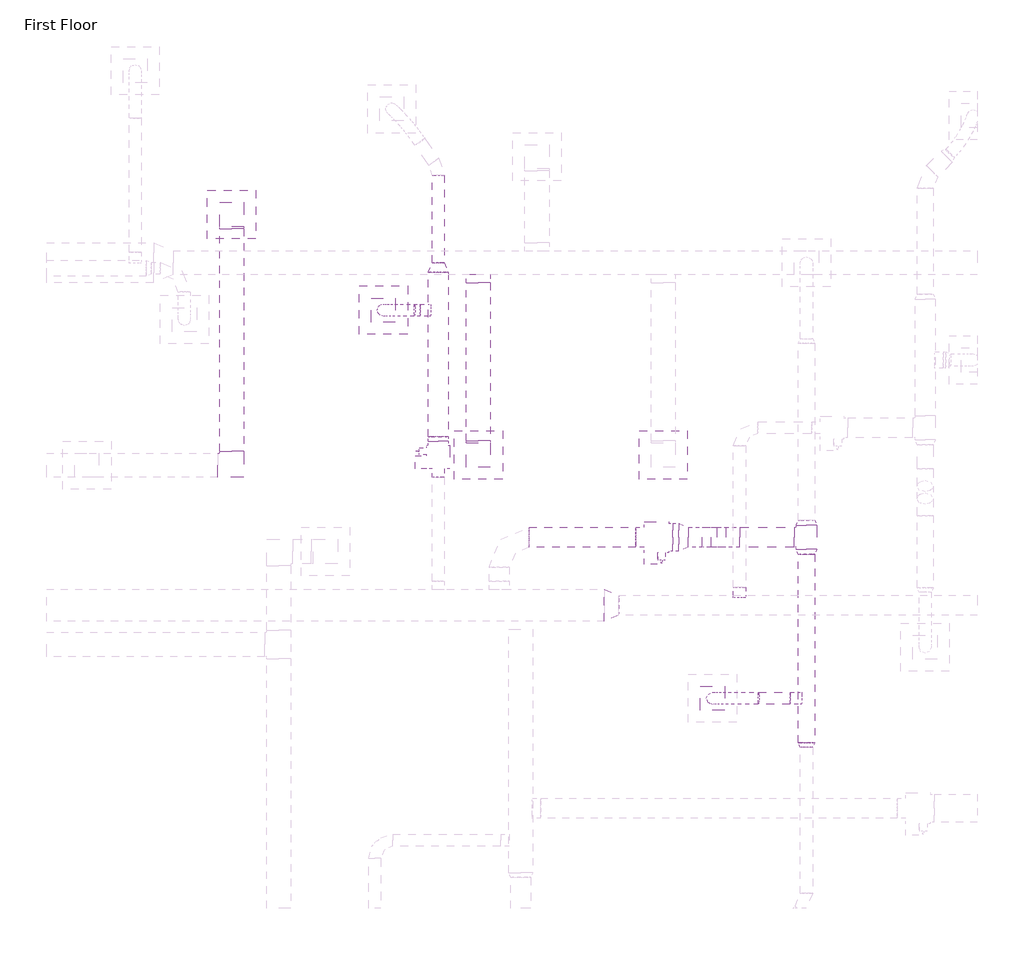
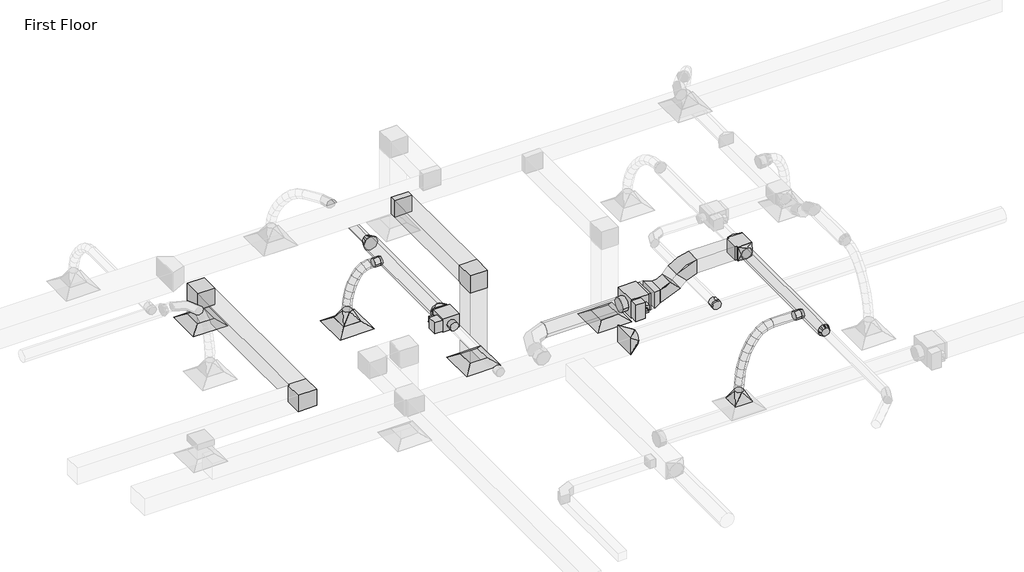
# One storey, part 55 of 61: 19 duct fittings, 15 duct segments, 4 air terminals, 2 proxies.
"""IFC4 building model written with IfcOpenShell, lengths in millimetres."""

from ifc_helpers import new_model, si_unit, point, frame, frame_2d, origin, place, context, project, spatial, polyline, circle_curve, ellipse_curve, trimmed, segment, composite_curve, outline, extrude, transform, mapped, element, save
from ifc_brep_helpers import plane_surface, cylinder_surface, advanced_brep
from components import m_exhaust_grill_er_600_x_600_face_300_x_300_connection_ff221211, m_vav_unit_single_duct_150_mm_e1405e6c, m_vav_unit_single_duct_250_mm_b14a1009, m_rectangular_elbow_mitered_standard_8eee5933, m_rectangular_elbow_radius_1_5_w_95db7921, m_rectangular_takeoff_standard_c00386d1, m_rectangular_tee_standard_d0887a4a, m_rectangular_transition_angle_45_degree_68338550, m_rectangular_to_round_transition_angle_45_degree_8f201c83, m_rectangular_to_round_transition_angle_45_degree_3d96429c, m_rectangular_to_round_transition_angle_45_degree_8322f327, m_rectangular_to_round_transition_angle_45_degree_a335dc79, m_round_takeoff_standard_e1559ea3, m_round_takeoff_standard_b5c2ee18, m_round_transition_angle_45_degree_6d7b59ce, m_round_transition_angle_45_degree_7615eb52

model = new_model("IFC4")

# Units and contexts
model_context = context("Model", 3, world=origin())
ifc_project = project(units=[si_unit("LENGTHUNIT", "METRE", prefix="MILLI")], contexts=[model_context])

# Site, building, storey
site = spatial("IfcSite", under=ifc_project)
building = spatial("IfcBuilding", under=site)
storey = spatial("IfcBuildingStorey", under=building, Name="First Floor", Elevation=0.0)

# Air terminals
placement = place(None, origin())
m_exhaust_grill_er_600_x_600_face_300_x_300_connection_shape = m_exhaust_grill_er_600_x_600_face_300_x_300_connection_ff221211(model_context)
element("IfcAirTerminal", 1, ObjectType="M_Exhaust Grill : ER-600 x 600 Face 300 x 300 Connection", at=placement, inside=storey, context=model_context, shape_type="MappedRepresentation", body=[
    mapped(m_exhaust_grill_er_600_x_600_face_300_x_300_connection_shape, transform((-15420.3756959, 47811.7457898, 2680.0), x_axis=(1.0, 0.0, 0.0), y_axis=(0.0, 1.0, 0.0), z_axis=(0.0, 0.0, 1.0))),
])
element("IfcAirTerminal", 2, ObjectType="M_Return Register : RR-600 x 600 Face 300 x 300 Connection", at=placement, inside=storey, context=model_context, shape_type="MappedRepresentation", body=[
    mapped(m_exhaust_grill_er_600_x_600_face_300_x_300_connection_shape, transform((-12353.0205377, 44823.6244525, 2680.0), x_axis=(1.0, 0.0, 0.0), y_axis=(0.0, 1.0, 0.0), z_axis=(0.0, 0.0, 1.0))),
])
element("IfcAirTerminal", 3, ObjectType="M_Return Register : RR-600 x 600 Face 300 x 300 Connection", at=placement, inside=storey, context=model_context, shape_type="MappedRepresentation", body=[
    mapped(m_exhaust_grill_er_600_x_600_face_300_x_300_connection_shape, transform((-10054.3728287, 44823.6244525, 2680.0), x_axis=(1.0, 0.0, 0.0), y_axis=(0.0, 1.0, 0.0), z_axis=(0.0, 0.0, 1.0))),
])
element("IfcAirTerminal", 4, ObjectType="M_Supply Diffuser : SD-600 x 600 Face 300 x 300 Connection", at=placement, inside=storey, context=model_context, shape_type="MappedRepresentation", body=[
    mapped(m_exhaust_grill_er_600_x_600_face_300_x_300_connection_shape, transform((-13533.8422419, 46623.8790102, 2680.0), x_axis=(1.0, 0.0, 0.0), y_axis=(0.0, 1.0, 0.0), z_axis=(0.0, 0.0, 1.0))),
])

# Proxies
m_vav_unit_single_duct_150_mm_shape = m_vav_unit_single_duct_150_mm_e1405e6c(model_context)
element("IfcBuildingElementProxy", 5, Name="M_VAV Unit - Single Duct : 150 mm", ObjectType="M_VAV Unit - Single Duct : 150 mm", at=placement, inside=storey, context=model_context, shape_type="MappedRepresentation", body=[
    mapped(m_vav_unit_single_duct_150_mm_shape, transform((-12852.4099417, 44649.2581212, 3550.1), x_axis=(0.0, 1.0000000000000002, 0.0), y_axis=(-1.0000000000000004, 0.0, 0.0), z_axis=(0.0, 0.0, 1.0000000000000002))),
])
m_vav_unit_single_duct_250_mm_shape = m_vav_unit_single_duct_250_mm_b14a1009(model_context)
element("IfcBuildingElementProxy", 6, Name="M_VAV Unit - Single Duct : 250 mm", ObjectType="M_VAV Unit - Single Duct : 250 mm", at=placement, inside=storey, context=model_context, shape_type="MappedRepresentation", body=[
    mapped(m_vav_unit_single_duct_250_mm_shape, transform((-10294.6549766, 43799.256062, 3500.075), x_axis=(1.0, 0.0, 0.0), y_axis=(0.0, 1.0, 0.0), z_axis=(0.0, 0.0, 1.0))),
])

# Duct fittings
m_rectangular_elbow_mitered_standard_shape = m_rectangular_elbow_mitered_standard_8eee5933(model_context)
element("IfcDuctFitting", 7, ObjectType="M_Rectangular Elbow - Mitered : Standard", at=placement, inside=storey, context=model_context, shape_type="MappedRepresentation", body=[
    mapped(m_rectangular_elbow_mitered_standard_shape, transform((-12353.0205377, 44823.6244525, 4259.5), x_axis=(0.0, 0.0, 1.0), y_axis=(0.0, 1.0, 0.0), z_axis=(-1.0, 0.0, 0.0))),
])
element("IfcDuctFitting", 8, ObjectType="M_Rectangular Elbow - Mitered : Standard", at=placement, inside=storey, context=model_context, shape_type="MappedRepresentation", body=[
    mapped(m_rectangular_elbow_mitered_standard_shape, transform((-15420.3756959, 47811.7457898, 3200.0), x_axis=(0.0, 0.0, 1.0), y_axis=(0.0, -1.0, 0.0), z_axis=(1.0, 0.0, 0.0))),
])
element("IfcDuctFitting", 9, ObjectType="M_Rectangular Elbow - Mitered : Standard", at=placement, inside=storey, context=model_context, shape_type="MappedRepresentation", body=[
    mapped(m_rectangular_elbow_mitered_standard_shape, transform((-15420.3756959, 44694.9781212, 3200.0), x_axis=(1.0, 0.0, 0.0), y_axis=(0.0, 1.0, 0.0), z_axis=(0.0, 0.0, 1.0))),
])
m_rectangular_elbow_radius_1_5_w_shape = m_rectangular_elbow_radius_1_5_w_95db7921(model_context)
element("IfcDuctFitting", 10, ObjectType="M_Rectangular Elbow - Radius : 1.5 W", at=placement, inside=storey, context=model_context, shape_type="MappedRepresentation", body=[
    mapped(m_rectangular_elbow_radius_1_5_w_shape, transform((-9589.642937, 43799.256062, 3669.125), x_axis=(1.0, 0.0, 0.0), y_axis=(0.0, 0.0, 1.0), z_axis=(0.0, -1.0, 0.0))),
])
element("IfcDuctFitting", 11, ObjectType="M_Rectangular Elbow - Radius : 1.5 W", at=placement, inside=storey, context=model_context, shape_type="MappedRepresentation", body=[
    mapped(m_rectangular_elbow_radius_1_5_w_shape, transform((-9258.767937, 43799.256062, 4000.0), x_axis=(0.7071067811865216, 0.0, 0.7071067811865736), y_axis=(0.7071067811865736, 0.0, -0.7071067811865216), z_axis=(0.0, 1.0, 0.0))),
])
m_rectangular_takeoff_standard_shape = m_rectangular_takeoff_standard_c00386d1(model_context)
element("IfcDuctFitting", 12, ObjectType="M_Rectangular Takeoff : Standard", at=placement, inside=storey, context=model_context, shape_type="MappedRepresentation", body=[
    mapped(m_rectangular_takeoff_standard_shape, transform((-12353.0205377, 47061.3321421, 4259.5), x_axis=(0.0, -1.0, 0.0), y_axis=(-1.0, 0.0, 0.0), z_axis=(0.0, 0.0, -1.0))),
])
m_rectangular_tee_standard_shape = m_rectangular_tee_standard_d0887a4a(model_context)
element("IfcDuctFitting", 13, ObjectType="M_Rectangular Tee : Standard", at=placement, inside=storey, context=model_context, shape_type="MappedRepresentation", body=[
    mapped(m_rectangular_tee_standard_shape, transform((-8275.4155915, 43799.256062, 4000.0), x_axis=(0.0, -1.0, 0.0), y_axis=(1.0, 0.0, 0.0), z_axis=(0.0, 0.0, 1.0))),
])
m_rectangular_transition_angle_45_degree_shape = m_rectangular_transition_angle_45_degree_68338550(model_context)
element("IfcDuctFitting", 14, ObjectType="M_Rectangular Transition - Angle : 45 Degree", at=placement, inside=storey, context=model_context, shape_type="MappedRepresentation", body=[
    mapped(m_rectangular_transition_angle_45_degree_shape, transform((-9865.683701, 43799.256062, 3669.125), x_axis=(1.0, 0.0, 0.0), y_axis=(0.0, 1.0, 0.0), z_axis=(0.0, 0.0, 1.0))),
])
m_rectangular_to_round_transition_angle_45_degree_shape = m_rectangular_to_round_transition_angle_45_degree_8f201c83(model_context)
element("IfcDuctFitting", 15, ObjectType="M_Rectangular to Round Transition - Angle : 45 Degree", at=placement, inside=storey, context=model_context, shape_type="MappedRepresentation", body=[
    mapped(m_rectangular_to_round_transition_angle_45_degree_shape, transform((-9443.8265855, 41799.3842664, 2781.6), x_axis=(0.0, 0.0, 1.0), y_axis=(1.0, 0.0, 0.0), z_axis=(0.0, 1.0, 0.0))),
])
element("IfcDuctFitting", 16, ObjectType="M_Rectangular to Round Transition - Angle : 45 Degree", at=placement, inside=storey, context=model_context, shape_type="MappedRepresentation", body=[
    mapped(m_rectangular_to_round_transition_angle_45_degree_shape, transform((-13533.8422419, 46623.8790102, 2781.6), x_axis=(0.0, 0.0, 1.0), y_axis=(1.0, 0.0, 0.0), z_axis=(0.0, 1.0, 0.0))),
])
m_rectangular_to_round_transition_angle_45_degree_2_shape = m_rectangular_to_round_transition_angle_45_degree_3d96429c(model_context)
element("IfcDuctFitting", 17, ObjectType="M_Rectangular to Round Transition - Angle : 45 Degree", at=placement, inside=storey, context=model_context, shape_type="MappedRepresentation", body=[
    mapped(m_rectangular_to_round_transition_angle_45_degree_2_shape, transform((-10789.5481821, 42956.1720978, 3659.6), x_axis=(1.0, 0.0, 0.0), y_axis=(0.0, 1.0, 0.0), z_axis=(0.0, 0.0, 1.0))),
])
m_rectangular_to_round_transition_angle_45_degree_3_shape = m_rectangular_to_round_transition_angle_45_degree_8322f327(model_context)
element("IfcDuctFitting", 18, ObjectType="M_Rectangular to Round Transition - Angle : 45 Degree", at=placement, inside=storey, context=model_context, shape_type="MappedRepresentation", body=[
    mapped(m_rectangular_to_round_transition_angle_45_degree_3_shape, transform((-8275.4155915, 43949.256062, 4000.0), x_axis=(0.0, 1.0, 0.0), y_axis=(-1.0, 0.0, 0.0), z_axis=(0.0, 0.0, 1.0))),
])
element("IfcDuctFitting", 19, ObjectType="M_Rectangular to Round Transition - Angle : 45 Degree", at=placement, inside=storey, context=model_context, shape_type="MappedRepresentation", body=[
    mapped(m_rectangular_to_round_transition_angle_45_degree_3_shape, transform((-8275.4155915, 43649.256062, 4000.0), x_axis=(0.0, -1.0, 0.0), y_axis=(1.0, 0.0, 0.0), z_axis=(0.0, 0.0, 1.0))),
])
m_rectangular_to_round_transition_angle_45_degree_4_shape = m_rectangular_to_round_transition_angle_45_degree_a335dc79(model_context)
element("IfcDuctFitting", 20, ObjectType="M_Rectangular to Round Transition - Angle : 45 Degree", at=placement, inside=storey, context=model_context, shape_type="MappedRepresentation", body=[
    mapped(m_rectangular_to_round_transition_angle_45_degree_4_shape, transform((-12852.4099417, 44992.0581212, 3669.15), x_axis=(0.0, 1.0, 0.0), y_axis=(-1.0, 0.0, 0.0), z_axis=(0.0, 0.0, 1.0))),
])
m_round_takeoff_standard_shape = m_round_takeoff_standard_e1559ea3(model_context)
element("IfcDuctFitting", 21, ObjectType="M_Round Takeoff : Standard", at=placement, inside=storey, context=model_context, shape_type="MappedRepresentation", body=[
    mapped(m_round_takeoff_standard_shape, transform((-8375.4155915, 41799.3842664, 4000.0), x_axis=(-1.0, 0.0, 0.0), y_axis=(0.0, 1.0, 0.0), z_axis=(0.0, 0.0, -1.0))),
])
m_round_takeoff_standard_2_shape = m_round_takeoff_standard_b5c2ee18(model_context)
element("IfcDuctFitting", 22, ObjectType="M_Round Takeoff : Standard", at=placement, inside=storey, context=model_context, shape_type="MappedRepresentation", body=[
    mapped(m_round_takeoff_standard_2_shape, transform((-9108.298116, 43081.1720978, 3659.6), x_axis=(0.0, 1.0, 0.0), y_axis=(1.0, 0.0, 0.0), z_axis=(0.0, 0.0, -1.0))),
])
element("IfcDuctFitting", 23, ObjectType="M_Round Takeoff : Standard", at=placement, inside=storey, context=model_context, shape_type="MappedRepresentation", body=[
    mapped(m_round_takeoff_standard_2_shape, transform((-12977.4099417, 46623.8790102, 3669.2), x_axis=(-1.0, 0.0, 0.0), y_axis=(0.0, 1.0, 0.0), z_axis=(0.0, 0.0, -1.0))),
])
m_round_transition_angle_45_degree_shape = m_round_transition_angle_45_degree_6d7b59ce(model_context)
element("IfcDuctFitting", 24, ObjectType="M_Round Transition - Angle : 45 Degree", at=placement, inside=storey, context=model_context, shape_type="MappedRepresentation", body=[
    mapped(m_round_transition_angle_45_degree_shape, transform((-8275.4155915, 41249.256062, 4000.0), x_axis=(0.0, -1.0, 0.0), y_axis=(1.0, 0.0, 0.0), z_axis=(0.0, 0.0, 1.0))),
])
m_round_transition_angle_45_degree_2_shape = m_round_transition_angle_45_degree_7615eb52(model_context)
element("IfcDuctFitting", 25, ObjectType="M_Round Transition - Angle : 45 Degree", at=placement, inside=storey, context=model_context, shape_type="MappedRepresentation", body=[
    mapped(m_round_transition_angle_45_degree_2_shape, transform((-12852.4099417, 47092.0581212, 3669.2), x_axis=(0.0, 1.0, 0.0), y_axis=(-1.0, 0.0, 0.0), z_axis=(0.0, 0.0, 1.0))),
])

# Duct segments
element("IfcDuctSegment", 26, ObjectType="Flex - Round", at=placement, inside=storey, context=model_context, shape_type="AdvancedBrep", body=[
    advanced_brep(
    [(-8875.4155915, 41724.3842664, 4000.0), (-8863.2284607, 41799.3842664, 3925.9967984), (-8875.4155915, 41874.3842664, 4000.0), (-8887.6027223, 41799.3842664, 4074.0032016), (-8987.1425906, 41724.3842664, 3981.6003697), (-8963.075046, 41799.3842664, 3909.5536802), (-8987.1425906, 41874.3842664, 3981.6003697), (-9011.2101351, 41799.3842664, 4053.6470592), (-9443.8265855, 41724.3842664, 2962.6660172), (-9518.7598721, 41799.3842664, 2965.8286987), (-9443.8265855, 41874.3842664, 2962.6660172), (-9368.8932988, 41799.3842664, 2959.5033357), (-9085.9361482, 41724.3842664, 3929.9687191), (-9042.3772224, 41799.3842664, 3868.1086471), (-9085.9361482, 41874.3842664, 3929.9687191), (-9129.4950739, 41799.3842664, 3991.8287911), (-9172.0724799, 41724.3842664, 3850.4559084), (-9115.6849942, 41799.3842664, 3800.4379341), (-9172.0724799, 41874.3842664, 3850.4559084), (-9228.4599655, 41799.3842664, 3900.4738828), (-9245.8278013, 41724.3842664, 3748.412798), (-9181.7723907, 41799.3842664, 3709.0036705), (-9245.8278013, 41874.3842664, 3748.412798), (-9309.8832119, 41799.3842664, 3787.8219255), (-9307.478328, 41724.3842664, 3629.1902481), (-9238.8935654, 41799.3842664, 3598.5401846), (-9307.478328, 41874.3842664, 3629.1902481), (-9376.0630907, 41799.3842664, 3659.8403117), (-9357.3002756, 41724.3842664, 3498.1391191), (-9285.9700292, 41799.3842664, 3474.7107471), (-9357.3002756, 41874.3842664, 3498.1391191), (-9428.6305219, 41799.3842664, 3521.567491), (-9395.5698595, 41724.3842664, 3360.6102712), (-9322.5192549, 41799.3842664, 3343.3643256), (-9395.5698595, 41874.3842664, 3360.6102712), (-9468.6204641, 41799.3842664, 3377.8562167), (-9422.5632954, 41724.3842664, 3221.9545647), (-9348.4158688, 41799.3842664, 3210.342605), (-9422.5632954, 41874.3842664, 3221.9545647), (-9496.7107221, 41799.3842664, 3233.5665243), (-9438.5567989, 41724.3842664, 3087.5228599), (-9363.7441211, 41799.3842664, 3081.5025987), (-9438.5567989, 41874.3842664, 3087.5228599), (-9513.3694767, 41799.3842664, 3093.5431212)],
    [
        (0, 1, circle_curve(frame((-8875.4155915, 41799.3842664, 4000.0), z_axis=(0.9867093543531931, 0.0, 0.16249507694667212), x_axis=(0.0, -1.0, 0.0)), 75.0)),
        (1, 2, circle_curve(frame((-8875.4155915, 41799.3842664, 4000.0), z_axis=(0.9867093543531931, 0.0, 0.16249507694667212), x_axis=(0.0, -1.0, 0.0)), 75.0)),
        (2, 3, circle_curve(frame((-8875.4155915, 41799.3842664, 4000.0), z_axis=(0.9867093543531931, 0.0, 0.16249507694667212), x_axis=(0.0, -1.0, 0.0)), 75.0)),
        (3, 0, circle_curve(frame((-8875.4155915, 41799.3842664, 4000.0), z_axis=(0.9867093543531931, 0.0, 0.16249507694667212), x_axis=(0.0, -1.0, 0.0)), 75.0)),
        (0, 4),
        (4, 5, ellipse_curve(frame((-8987.1425906, 41799.3842664, 3981.6003697), z_axis=(0.9484778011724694, 0.0, 0.31684359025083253), x_axis=(0.31684359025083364, 0.0, -0.948477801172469)), 75.9603329, 75.0)),
        (5, 1),
        (5, 6, ellipse_curve(frame((-8987.1425906, 41799.3842664, 3981.6003697), z_axis=(0.9484778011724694, 0.0, 0.31684359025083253), x_axis=(0.31684359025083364, 0.0, -0.948477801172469)), 75.9603329, 75.0)),
        (6, 2),
        (6, 7, ellipse_curve(frame((-8987.1425906, 41799.3842664, 3981.6003697), z_axis=(0.9484778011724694, 0.0, 0.31684359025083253), x_axis=(0.31684359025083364, 0.0, -0.948477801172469)), 75.9603329, 75.0)),
        (7, 3),
        (7, 4, ellipse_curve(frame((-8987.1425906, 41799.3842664, 3981.6003697), z_axis=(0.9484778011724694, 0.0, 0.31684359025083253), x_axis=(0.31684359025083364, 0.0, -0.948477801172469)), 75.9603329, 75.0)),
        (8, 9, circle_curve(frame((-9443.8265855, 41799.3842664, 2962.6660172), z_axis=(-0.04216908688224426, 0.0, -0.9991104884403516), x_axis=(0.0, -1.0, 0.0)), 75.0)),
        (9, 10, circle_curve(frame((-9443.8265855, 41799.3842664, 2962.6660172), z_axis=(-0.04216908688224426, 0.0, -0.9991104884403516), x_axis=(0.0, -1.0, 0.0)), 75.0)),
        (10, 11, circle_curve(frame((-9443.8265855, 41799.3842664, 2962.6660172), z_axis=(-0.04216908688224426, 0.0, -0.9991104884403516), x_axis=(0.0, -1.0, 0.0)), 75.0)),
        (11, 8, circle_curve(frame((-9443.8265855, 41799.3842664, 2962.6660172), z_axis=(-0.04216908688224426, 0.0, -0.9991104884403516), x_axis=(0.0, -1.0, 0.0)), 75.0)),
        (4, 12),
        (12, 13, ellipse_curve(frame((-9085.9361482, 41799.3842664, 3929.9687191), z_axis=(0.8176336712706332, 0.0, 0.5757388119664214), x_axis=(0.5757388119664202, 0.0, -0.8176336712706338)), 75.6574419, 75.0)),
        (13, 5),
        (13, 14, ellipse_curve(frame((-9085.9361482, 41799.3842664, 3929.9687191), z_axis=(0.8176336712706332, 0.0, 0.5757388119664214), x_axis=(0.5757388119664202, 0.0, -0.8176336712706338)), 75.6574419, 75.0)),
        (14, 6),
        (14, 15, ellipse_curve(frame((-9085.9361482, 41799.3842664, 3929.9687191), z_axis=(0.8176336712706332, 0.0, 0.5757388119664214), x_axis=(0.5757388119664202, 0.0, -0.8176336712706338)), 75.6574419, 75.0)),
        (15, 7),
        (15, 12, ellipse_curve(frame((-9085.9361482, 41799.3842664, 3929.9687191), z_axis=(0.8176336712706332, 0.0, 0.5757388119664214), x_axis=(0.5757388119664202, 0.0, -0.8176336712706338)), 75.6574419, 75.0)),
        (12, 16),
        (16, 17, ellipse_curve(frame((-9172.0724799, 41799.3842664, 3850.4559084), z_axis=(0.6635909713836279, 0.0, 0.7480955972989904), x_axis=(0.7480955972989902, 0.0, -0.6635909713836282)), 75.3747059, 75.0)),
        (17, 13),
        (17, 18, ellipse_curve(frame((-9172.0724799, 41799.3842664, 3850.4559084), z_axis=(0.6635909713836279, 0.0, 0.7480955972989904), x_axis=(0.7480955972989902, 0.0, -0.6635909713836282)), 75.3747059, 75.0)),
        (18, 14),
        (18, 19, ellipse_curve(frame((-9172.0724799, 41799.3842664, 3850.4559084), z_axis=(0.6635909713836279, 0.0, 0.7480955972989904), x_axis=(0.7480955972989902, 0.0, -0.6635909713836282)), 75.3747059, 75.0)),
        (19, 15),
        (19, 16, ellipse_curve(frame((-9172.0724799, 41799.3842664, 3850.4559084), z_axis=(0.6635909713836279, 0.0, 0.7480955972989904), x_axis=(0.7480955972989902, 0.0, -0.6635909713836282)), 75.3747059, 75.0)),
        (16, 20),
        (20, 21, ellipse_curve(frame((-9245.8278013, 41799.3842664, 3748.412798), z_axis=(0.5240049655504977, 0.0, 0.8517152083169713), x_axis=(0.85171520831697, 0.0, -0.5240049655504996)), 75.2075458, 75.0)),
        (21, 17),
        (21, 22, ellipse_curve(frame((-9245.8278013, 41799.3842664, 3748.412798), z_axis=(0.5240049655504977, 0.0, 0.8517152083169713), x_axis=(0.85171520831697, 0.0, -0.5240049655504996)), 75.2075458, 75.0)),
        (22, 18),
        (22, 23, ellipse_curve(frame((-9245.8278013, 41799.3842664, 3748.412798), z_axis=(0.5240049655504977, 0.0, 0.8517152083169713), x_axis=(0.85171520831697, 0.0, -0.5240049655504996)), 75.2075458, 75.0)),
        (23, 19),
        (23, 20, ellipse_curve(frame((-9245.8278013, 41799.3842664, 3748.412798), z_axis=(0.5240049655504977, 0.0, 0.8517152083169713), x_axis=(0.85171520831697, 0.0, -0.5240049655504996)), 75.2075458, 75.0)),
        (20, 24),
        (24, 25, ellipse_curve(frame((-9307.478328, 41799.3842664, 3629.1902481), z_axis=(0.4080045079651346, 0.0, 0.9129799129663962), x_axis=(0.9129799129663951, 0.0, -0.40800450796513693)), 75.1218747, 75.0)),
        (25, 21),
        (25, 26, ellipse_curve(frame((-9307.478328, 41799.3842664, 3629.1902481), z_axis=(0.4080045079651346, 0.0, 0.9129799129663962), x_axis=(0.9129799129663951, 0.0, -0.40800450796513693)), 75.1218747, 75.0)),
        (26, 22),
        (26, 27, ellipse_curve(frame((-9307.478328, 41799.3842664, 3629.1902481), z_axis=(0.4080045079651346, 0.0, 0.9129799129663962), x_axis=(0.9129799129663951, 0.0, -0.40800450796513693)), 75.1218747, 75.0)),
        (27, 23),
        (27, 24, ellipse_curve(frame((-9307.478328, 41799.3842664, 3629.1902481), z_axis=(0.4080045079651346, 0.0, 0.9129799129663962), x_axis=(0.9129799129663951, 0.0, -0.40800450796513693)), 75.1218747, 75.0)),
        (24, 28),
        (28, 29, ellipse_curve(frame((-9357.3002756, 41799.3842664, 3498.1391191), z_axis=(0.31204859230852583, 0.0, 0.9500661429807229), x_axis=(0.9500661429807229, 0.0, -0.3120485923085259)), 75.0792425, 75.0)),
        (29, 25),
        (29, 30, ellipse_curve(frame((-9357.3002756, 41799.3842664, 3498.1391191), z_axis=(0.31204859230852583, 0.0, 0.9500661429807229), x_axis=(0.9500661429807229, 0.0, -0.3120485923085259)), 75.0792425, 75.0)),
        (30, 26),
        (30, 31, ellipse_curve(frame((-9357.3002756, 41799.3842664, 3498.1391191), z_axis=(0.31204859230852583, 0.0, 0.9500661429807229), x_axis=(0.9500661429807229, 0.0, -0.3120485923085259)), 75.0792425, 75.0)),
        (31, 27),
        (31, 28, ellipse_curve(frame((-9357.3002756, 41799.3842664, 3498.1391191), z_axis=(0.31204859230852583, 0.0, 0.9500661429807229), x_axis=(0.9500661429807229, 0.0, -0.3120485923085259)), 75.0792425, 75.0)),
        (28, 32),
        (32, 33, ellipse_curve(frame((-9395.5698595, 41799.3842664, 3360.6102712), z_axis=(0.22976600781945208, 0.0, 0.9732458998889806), x_axis=(0.9732458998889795, 0.0, -0.22976600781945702)), 75.0587335, 75.0)),
        (33, 29),
        (33, 34, ellipse_curve(frame((-9395.5698595, 41799.3842664, 3360.6102712), z_axis=(0.22976600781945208, 0.0, 0.9732458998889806), x_axis=(0.9732458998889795, 0.0, -0.22976600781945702)), 75.0587335, 75.0)),
        (34, 30),
        (34, 35, ellipse_curve(frame((-9395.5698595, 41799.3842664, 3360.6102712), z_axis=(0.22976600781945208, 0.0, 0.9732458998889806), x_axis=(0.9732458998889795, 0.0, -0.22976600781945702)), 75.0587335, 75.0)),
        (35, 31),
        (35, 32, ellipse_curve(frame((-9395.5698595, 41799.3842664, 3360.6102712), z_axis=(0.22976600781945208, 0.0, 0.9732458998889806), x_axis=(0.9732458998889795, 0.0, -0.22976600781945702)), 75.0587335, 75.0)),
        (32, 36),
        (36, 37, ellipse_curve(frame((-9422.5632954, 41799.3842664, 3221.9545647), z_axis=(0.15472056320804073, 0.0, 0.9879582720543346), x_axis=(0.9879582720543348, 0.0, -0.15472056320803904)), 75.0511725, 75.0)),
        (37, 33),
        (37, 38, ellipse_curve(frame((-9422.5632954, 41799.3842664, 3221.9545647), z_axis=(0.15472056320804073, 0.0, 0.9879582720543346), x_axis=(0.9879582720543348, 0.0, -0.15472056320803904)), 75.0511725, 75.0)),
        (38, 34),
        (38, 39, ellipse_curve(frame((-9422.5632954, 41799.3842664, 3221.9545647), z_axis=(0.15472056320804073, 0.0, 0.9879582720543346), x_axis=(0.9879582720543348, 0.0, -0.15472056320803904)), 75.0511725, 75.0)),
        (39, 35),
        (39, 36, ellipse_curve(frame((-9422.5632954, 41799.3842664, 3221.9545647), z_axis=(0.15472056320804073, 0.0, 0.9879582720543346), x_axis=(0.9879582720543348, 0.0, -0.15472056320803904)), 75.0511725, 75.0)),
        (36, 40),
        (40, 41, ellipse_curve(frame((-9438.5567989, 41799.3842664, 3087.5228599), z_axis=(0.08021184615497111, 0.0, 0.996777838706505), x_axis=(0.9967778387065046, 1.7491556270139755e-12, -0.08021184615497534)), 75.0545156, 75.0)),
        (41, 37),
        (41, 42, ellipse_curve(frame((-9438.5567989, 41799.3842664, 3087.5228599), z_axis=(0.08021184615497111, 0.0, 0.996777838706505), x_axis=(0.9967778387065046, 1.7491556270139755e-12, -0.08021184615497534)), 75.0545156, 75.0)),
        (42, 38),
        (42, 43, ellipse_curve(frame((-9438.5567989, 41799.3842664, 3087.5228599), z_axis=(0.08021184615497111, 0.0, 0.996777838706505), x_axis=(0.9967778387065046, 1.7491556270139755e-12, -0.08021184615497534)), 75.0545156, 75.0)),
        (43, 39),
        (43, 40, ellipse_curve(frame((-9438.5567989, 41799.3842664, 3087.5228599), z_axis=(0.08021184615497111, 0.0, 0.996777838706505), x_axis=(0.9967778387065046, 1.7491556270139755e-12, -0.08021184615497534)), 75.0545156, 75.0)),
        (40, 8),
        (11, 41),
        (10, 42),
        (9, 43),
    ],
    [
        plane_surface(frame((-8875.4155915, 41874.3842664, 4000.0), z_axis=(0.9867093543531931, 0.0, 0.16249507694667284), x_axis=(0.16249507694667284, 0.0, -0.9867093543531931))),
        cylinder_surface(frame((-8875.4155915, 41799.3842664, 4000.0), z_axis=(0.9867093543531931, 0.0, 0.16249507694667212), x_axis=(0.0, -1.0, 0.0)), 75.0),
        plane_surface(frame((-9443.8265855, 41874.3842664, 2962.6660172), z_axis=(-0.04216908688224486, 0.0, -0.9991104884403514), x_axis=(0.9991104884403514, 0.0, -0.04216908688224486))),
        cylinder_surface(frame((-8987.1425906, 41799.3842664, 3981.6003697), z_axis=(0.8862638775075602, 0.0, 0.46318067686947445), x_axis=(0.0, -1.0, 0.0)), 75.0),
        cylinder_surface(frame((-9085.9361482, 41799.3842664, 3929.9687191), z_axis=(0.7347934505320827, 0.0, 0.678290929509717), x_axis=(0.0, -1.0, 0.0)), 75.0),
        cylinder_surface(frame((-9172.0724799, 41799.3842664, 3850.4559084), z_axis=(0.5857907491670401, 0.0, 0.8104623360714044), x_axis=(0.0, -1.0, 0.0)), 75.0),
        cylinder_surface(frame((-9245.8278013, 41799.3842664, 3748.412798), z_axis=(0.45932705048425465, 0.0, 0.8882672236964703), x_axis=(0.0, -1.0, 0.0)), 75.0),
        cylinder_surface(frame((-9307.478328, 41799.3842664, 3629.1902481), z_axis=(0.35535810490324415, 0.0, 0.9347302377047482), x_axis=(0.0, -1.0, 0.0)), 75.0),
        cylinder_surface(frame((-9357.3002756, 41799.3842664, 3498.1391191), z_axis=(0.2680803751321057, 0.0, 0.9633965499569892), x_axis=(0.0, -1.0, 0.0)), 75.0),
        cylinder_surface(frame((-9395.5698595, 41799.3842664, 3360.6102712), z_axis=(0.1910920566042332, 0.0, 0.9815721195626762), x_axis=(0.0, -1.0, 0.0)), 75.0),
        cylinder_surface(frame((-9422.5632954, 41799.3842664, 3221.9545647), z_axis=(0.1181380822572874, 0.0, 0.9929971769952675), x_axis=(0.0, -1.0, 0.0)), 75.0),
        cylinder_surface(frame((-9438.5567989, 41799.3842664, 3087.5228599), z_axis=(0.04216908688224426, 0.0, 0.9991104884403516), x_axis=(0.0, -1.0, 0.0)), 75.0),
    ],
    [
        (0, [[1, 2, 3, 4]]),
        (1, [[-1, 5, 6, 7]]),
        (1, [[-2, -7, 8, 9]]),
        (1, [[-3, -9, 10, 11]]),
        (1, [[-4, -11, 12, -5]]),
        (2, [[13, 14, 15, 16]]),
        (3, [[-6, 17, 18, 19]]),
        (3, [[-8, -19, 20, 21]]),
        (3, [[-10, -21, 22, 23]]),
        (3, [[-12, -23, 24, -17]]),
        (4, [[-18, 25, 26, 27]]),
        (4, [[-20, -27, 28, 29]]),
        (4, [[-22, -29, 30, 31]]),
        (4, [[-24, -31, 32, -25]]),
        (5, [[-26, 33, 34, 35]]),
        (5, [[-28, -35, 36, 37]]),
        (5, [[-30, -37, 38, 39]]),
        (5, [[-32, -39, 40, -33]]),
        (6, [[-34, 41, 42, 43]]),
        (6, [[-36, -43, 44, 45]]),
        (6, [[-38, -45, 46, 47]]),
        (6, [[-40, -47, 48, -41]]),
        (7, [[-42, 49, 50, 51]]),
        (7, [[-44, -51, 52, 53]]),
        (7, [[-46, -53, 54, 55]]),
        (7, [[-48, -55, 56, -49]]),
        (8, [[-50, 57, 58, 59]]),
        (8, [[-52, -59, 60, 61]]),
        (8, [[-54, -61, 62, 63]]),
        (8, [[-56, -63, 64, -57]]),
        (9, [[-58, 65, 66, 67]]),
        (9, [[-60, -67, 68, 69]]),
        (9, [[-62, -69, 70, 71]]),
        (9, [[-64, -71, 72, -65]]),
        (10, [[-66, 73, 74, 75]]),
        (10, [[-68, -75, 76, 77]]),
        (10, [[-70, -77, 78, 79]]),
        (10, [[-72, -79, 80, -73]]),
        (11, [[-74, 81, -16, 82]]),
        (11, [[-76, -82, -15, 83]]),
        (11, [[-78, -83, -14, 84]]),
        (11, [[-80, -84, -13, -81]]),
    ],
),
])
element("IfcDuctSegment", 27, ObjectType="Flex - Round", at=placement, inside=storey, context=model_context, shape_type="AdvancedBrep", body=[
    advanced_brep(
    [(-13152.4099417, 46548.8790102, 3669.2), (-13137.1449278, 46623.8790102, 3595.7699016), (-13152.4099417, 46698.8790102, 3669.2), (-13167.6749555, 46623.8790102, 3742.6300984), (-13245.6415844, 46548.8790102, 3649.8185427), (-13215.9644092, 46623.8790102, 3579.384516), (-13245.6415844, 46698.8790102, 3649.8185427), (-13275.3187595, 46623.8790102, 3720.2525694), (-13533.8422419, 46548.8790102, 2962.6660172), (-13608.7468393, 46623.8790102, 2966.4477219), (-13533.8422419, 46698.8790102, 2962.6660172), (-13458.9376446, 46623.8790102, 2958.8843124), (-13324.9193936, 46548.8790102, 3596.4409502), (-13273.9050262, 46623.8790102, 3540.3732129), (-13324.9193936, 46698.8790102, 3596.4409502), (-13375.933761, 46623.8790102, 3652.5086874), (-13390.712771, 46548.8790102, 3516.2173913), (-13327.9268929, 46623.8790102, 3474.5029601), (-13390.712771, 46698.8790102, 3516.2173913), (-13453.4986491, 46623.8790102, 3557.9318226), (-13443.4911184, 46548.8790102, 3416.2980352), (-13374.675595, 46623.8790102, 3385.9988587), (-13443.4911184, 46698.8790102, 3416.2980352), (-13512.3066418, 46623.8790102, 3446.5972118), (-13483.7238375, 46548.8790102, 3303.8330508), (-13411.7276924, 46623.8790102, 3282.4248609), (-13483.7238375, 46698.8790102, 3303.8330508), (-13555.7199827, 46623.8790102, 3325.2412406), (-13511.88033, 46548.8790102, 3185.972607), (-13438.1228621, 46623.8790102, 3171.9371495), (-13511.88033, 46698.8790102, 3185.972607), (-13585.6377979, 46623.8790102, 3200.0080644), (-13528.4299976, 46548.8790102, 3069.8668728), (-13453.6978552, 46623.8790102, 3062.6693351), (-13528.4299976, 46698.8790102, 3069.8668728), (-13603.16214, 46623.8790102, 3077.0644105)],
    [
        (0, 1, circle_curve(frame((-13152.4099417, 46623.8790102, 3669.2), z_axis=(0.9790679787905, 0.0, 0.20353351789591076), x_axis=(0.0, -1.0, 0.0)), 75.0)),
        (1, 2, circle_curve(frame((-13152.4099417, 46623.8790102, 3669.2), z_axis=(0.9790679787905, 0.0, 0.20353351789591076), x_axis=(0.0, -1.0, 0.0)), 75.0)),
        (2, 3, circle_curve(frame((-13152.4099417, 46623.8790102, 3669.2), z_axis=(0.9790679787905, 0.0, 0.20353351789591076), x_axis=(0.0, -1.0, 0.0)), 75.0)),
        (3, 0, circle_curve(frame((-13152.4099417, 46623.8790102, 3669.2), z_axis=(0.9790679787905, 0.0, 0.20353351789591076), x_axis=(0.0, -1.0, 0.0)), 75.0)),
        (0, 4),
        (4, 5, ellipse_curve(frame((-13245.6415844, 46623.8790102, 3649.8185427), z_axis=(0.9215382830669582, 0.0, 0.38828751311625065), x_axis=(0.38828751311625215, 0.0, -0.9215382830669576)), 76.4309286, 75.0)),
        (5, 1),
        (5, 6, ellipse_curve(frame((-13245.6415844, 46623.8790102, 3649.8185427), z_axis=(0.9215382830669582, 0.0, 0.38828751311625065), x_axis=(0.38828751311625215, 0.0, -0.9215382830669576)), 76.4309286, 75.0)),
        (6, 2),
        (6, 7, ellipse_curve(frame((-13245.6415844, 46623.8790102, 3649.8185427), z_axis=(0.9215382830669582, 0.0, 0.38828751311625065), x_axis=(0.38828751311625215, 0.0, -0.9215382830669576)), 76.4309286, 75.0)),
        (7, 3),
        (7, 4, ellipse_curve(frame((-13245.6415844, 46623.8790102, 3649.8185427), z_axis=(0.9215382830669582, 0.0, 0.38828751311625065), x_axis=(0.38828751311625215, 0.0, -0.9215382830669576)), 76.4309286, 75.0)),
        (8, 9, circle_curve(frame((-13533.8422419, 46623.8790102, 2962.6660172), z_axis=(-0.05042273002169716, 0.0, -0.9987279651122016), x_axis=(0.0, -1.0, 0.0)), 75.0)),
        (9, 10, circle_curve(frame((-13533.8422419, 46623.8790102, 2962.6660172), z_axis=(-0.05042273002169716, 0.0, -0.9987279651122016), x_axis=(0.0, -1.0, 0.0)), 75.0)),
        (10, 11, circle_curve(frame((-13533.8422419, 46623.8790102, 2962.6660172), z_axis=(-0.05042273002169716, 0.0, -0.9987279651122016), x_axis=(0.0, -1.0, 0.0)), 75.0)),
        (11, 8, circle_curve(frame((-13533.8422419, 46623.8790102, 2962.6660172), z_axis=(-0.05042273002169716, 0.0, -0.9987279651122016), x_axis=(0.0, -1.0, 0.0)), 75.0)),
        (4, 12),
        (12, 13, ellipse_curve(frame((-13324.9193936, 46623.8790102, 3596.4409502), z_axis=(0.739653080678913, 0.0, 0.6729883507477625), x_axis=(0.6729883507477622, 0.0, -0.7396530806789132)), 75.8027496, 75.0)),
        (13, 5),
        (13, 14, ellipse_curve(frame((-13324.9193936, 46623.8790102, 3596.4409502), z_axis=(0.739653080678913, 0.0, 0.6729883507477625), x_axis=(0.6729883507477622, 0.0, -0.7396530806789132)), 75.8027496, 75.0)),
        (14, 6),
        (14, 15, ellipse_curve(frame((-13324.9193936, 46623.8790102, 3596.4409502), z_axis=(0.739653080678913, 0.0, 0.6729883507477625), x_axis=(0.6729883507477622, 0.0, -0.7396530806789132)), 75.8027496, 75.0)),
        (15, 7),
        (15, 12, ellipse_curve(frame((-13324.9193936, 46623.8790102, 3596.4409502), z_axis=(0.739653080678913, 0.0, 0.6729883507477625), x_axis=(0.6729883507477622, 0.0, -0.7396530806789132)), 75.8027496, 75.0)),
        (12, 16),
        (16, 17, ellipse_curve(frame((-13390.712771, 46623.8790102, 3516.2173913), z_axis=(0.5533878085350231, 0.0, 0.832923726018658), x_axis=(0.8329237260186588, 0.0, -0.553387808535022)), 75.3801052, 75.0)),
        (17, 13),
        (17, 18, ellipse_curve(frame((-13390.712771, 46623.8790102, 3516.2173913), z_axis=(0.5533878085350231, 0.0, 0.832923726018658), x_axis=(0.8329237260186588, 0.0, -0.553387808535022)), 75.3801052, 75.0)),
        (18, 14),
        (18, 19, ellipse_curve(frame((-13390.712771, 46623.8790102, 3516.2173913), z_axis=(0.5533878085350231, 0.0, 0.832923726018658), x_axis=(0.8329237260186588, 0.0, -0.553387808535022)), 75.3801052, 75.0)),
        (19, 15),
        (19, 16, ellipse_curve(frame((-13390.712771, 46623.8790102, 3516.2173913), z_axis=(0.5533878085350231, 0.0, 0.832923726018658), x_axis=(0.8329237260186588, 0.0, -0.553387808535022)), 75.3801052, 75.0)),
        (16, 20),
        (20, 21, ellipse_curve(frame((-13443.4911184, 46623.8790102, 3416.2980352), z_axis=(0.40296530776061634, 0.0, 0.9152152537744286), x_axis=(0.9152152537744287, 0.0, -0.4029653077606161)), 75.1905337, 75.0)),
        (21, 17),
        (21, 22, ellipse_curve(frame((-13443.4911184, 46623.8790102, 3416.2980352), z_axis=(0.40296530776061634, 0.0, 0.9152152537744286), x_axis=(0.9152152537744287, 0.0, -0.4029653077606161)), 75.1905337, 75.0)),
        (22, 18),
        (22, 23, ellipse_curve(frame((-13443.4911184, 46623.8790102, 3416.2980352), z_axis=(0.40296530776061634, 0.0, 0.9152152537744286), x_axis=(0.9152152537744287, 0.0, -0.4029653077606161)), 75.1905337, 75.0)),
        (23, 19),
        (23, 20, ellipse_curve(frame((-13443.4911184, 46623.8790102, 3416.2980352), z_axis=(0.40296530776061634, 0.0, 0.9152152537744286), x_axis=(0.9152152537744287, 0.0, -0.4029653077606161)), 75.1905337, 75.0)),
        (20, 24),
        (24, 25, ellipse_curve(frame((-13483.7238375, 46623.8790102, 3303.8330508), z_axis=(0.2850183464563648, 0.0, 0.958522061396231), x_axis=(0.9585220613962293, 0.0, -0.28501834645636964)), 75.1116203, 75.0)),
        (25, 21),
        (25, 26, ellipse_curve(frame((-13483.7238375, 46623.8790102, 3303.8330508), z_axis=(0.2850183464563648, 0.0, 0.958522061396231), x_axis=(0.9585220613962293, 0.0, -0.28501834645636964)), 75.1116203, 75.0)),
        (26, 22),
        (26, 27, ellipse_curve(frame((-13483.7238375, 46623.8790102, 3303.8330508), z_axis=(0.2850183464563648, 0.0, 0.958522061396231), x_axis=(0.9585220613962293, 0.0, -0.28501834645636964)), 75.1116203, 75.0)),
        (27, 23),
        (27, 24, ellipse_curve(frame((-13483.7238375, 46623.8790102, 3303.8330508), z_axis=(0.2850183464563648, 0.0, 0.958522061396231), x_axis=(0.9585220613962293, 0.0, -0.28501834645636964)), 75.1116203, 75.0)),
        (24, 28),
        (28, 29, ellipse_curve(frame((-13511.88033, 46623.8790102, 3185.972607), z_axis=(0.18693751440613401, 0.0, 0.9823718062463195), x_axis=(0.9823718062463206, 0.0, -0.18693751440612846)), 75.0810105, 75.0)),
        (29, 25),
        (29, 30, ellipse_curve(frame((-13511.88033, 46623.8790102, 3185.972607), z_axis=(0.18693751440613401, 0.0, 0.9823718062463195), x_axis=(0.9823718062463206, 0.0, -0.18693751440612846)), 75.0810105, 75.0)),
        (30, 26),
        (30, 31, ellipse_curve(frame((-13511.88033, 46623.8790102, 3185.972607), z_axis=(0.18693751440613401, 0.0, 0.9823718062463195), x_axis=(0.9823718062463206, 0.0, -0.18693751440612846)), 75.0810105, 75.0)),
        (31, 27),
        (31, 28, ellipse_curve(frame((-13511.88033, 46623.8790102, 3185.972607), z_axis=(0.18693751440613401, 0.0, 0.9823718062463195), x_axis=(0.9823718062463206, 0.0, -0.18693751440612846)), 75.0810105, 75.0)),
        (28, 32),
        (32, 33, ellipse_curve(frame((-13528.4299976, 46623.8790102, 3069.8668728), z_axis=(0.0958675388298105, 0.0, 0.9953941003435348), x_axis=(0.9953941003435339, 1.6214619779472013e-12, -0.09586753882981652)), 75.0779439, 75.0)),
        (33, 29),
        (33, 34, ellipse_curve(frame((-13528.4299976, 46623.8790102, 3069.8668728), z_axis=(0.0958675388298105, 0.0, 0.9953941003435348), x_axis=(0.9953941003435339, 1.6214619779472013e-12, -0.09586753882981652)), 75.0779439, 75.0)),
        (34, 30),
        (34, 35, ellipse_curve(frame((-13528.4299976, 46623.8790102, 3069.8668728), z_axis=(0.0958675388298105, 0.0, 0.9953941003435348), x_axis=(0.9953941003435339, 1.6214619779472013e-12, -0.09586753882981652)), 75.0779439, 75.0)),
        (35, 31),
        (35, 32, ellipse_curve(frame((-13528.4299976, 46623.8790102, 3069.8668728), z_axis=(0.0958675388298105, 0.0, 0.9953941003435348), x_axis=(0.9953941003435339, 1.6214619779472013e-12, -0.09586753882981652)), 75.0779439, 75.0)),
        (32, 8),
        (11, 33),
        (10, 34),
        (9, 35),
    ],
    [
        plane_surface(frame((-13152.4099417, 46698.8790102, 3669.2), z_axis=(0.9790679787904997, 0.0, 0.20353351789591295), x_axis=(0.20353351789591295, 1.3073986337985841e-12, -0.9790679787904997))),
        cylinder_surface(frame((-13152.4099417, 46623.8790102, 3669.2), z_axis=(0.9790679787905, 0.0, 0.20353351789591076), x_axis=(0.0, -1.0, 0.0)), 75.0),
        plane_surface(frame((-13533.8422419, 46698.8790102, 2962.6660172), z_axis=(-0.05042273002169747, 0.0, -0.9987279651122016), x_axis=(0.9987279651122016, 0.0, -0.05042273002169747))),
        cylinder_surface(frame((-13245.6415844, 46623.8790102, 3649.8185427), z_axis=(0.829502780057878, 0.0, 0.5585025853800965), x_axis=(0.0, -1.0, 0.0)), 75.0),
        cylinder_surface(frame((-13324.9193936, 46623.8790102, 3596.4409502), z_axis=(0.6341375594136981, 0.0, 0.7732202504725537), x_axis=(0.0, -1.0, 0.0)), 75.0),
        cylinder_surface(frame((-13390.712771, 46623.8790102, 3516.2173913), z_axis=(0.46705712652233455, 0.0, 0.8842271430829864), x_axis=(0.0, -1.0, 0.0)), 75.0),
        cylinder_surface(frame((-13443.4911184, 46623.8790102, 3416.2980352), z_axis=(0.33683125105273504, 0.0, 0.9415650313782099), x_axis=(0.0, -1.0, 0.0)), 75.0),
        cylinder_surface(frame((-13483.7238375, 46623.8790102, 3303.8330508), z_axis=(0.23235833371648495, 0.0, 0.9726302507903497), x_axis=(0.0, -1.0, 0.0)), 75.0),
        cylinder_surface(frame((-13511.88033, 46623.8790102, 3185.972607), z_axis=(0.14111329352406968, 0.0, 0.9899934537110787), x_axis=(0.0, -1.0, 0.0)), 75.0),
        cylinder_surface(frame((-13528.4299976, 46623.8790102, 3069.8668728), z_axis=(0.05042273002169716, 0.0, 0.9987279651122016), x_axis=(0.0, -1.0, 0.0)), 75.0),
    ],
    [
        (0, [[1, 2, 3, 4]]),
        (1, [[-1, 5, 6, 7]]),
        (1, [[-2, -7, 8, 9]]),
        (1, [[-3, -9, 10, 11]]),
        (1, [[-4, -11, 12, -5]]),
        (2, [[13, 14, 15, 16]]),
        (3, [[-6, 17, 18, 19]]),
        (3, [[-8, -19, 20, 21]]),
        (3, [[-10, -21, 22, 23]]),
        (3, [[-12, -23, 24, -17]]),
        (4, [[-18, 25, 26, 27]]),
        (4, [[-20, -27, 28, 29]]),
        (4, [[-22, -29, 30, 31]]),
        (4, [[-24, -31, 32, -25]]),
        (5, [[-26, 33, 34, 35]]),
        (5, [[-28, -35, 36, 37]]),
        (5, [[-30, -37, 38, 39]]),
        (5, [[-32, -39, 40, -33]]),
        (6, [[-34, 41, 42, 43]]),
        (6, [[-36, -43, 44, 45]]),
        (6, [[-38, -45, 46, 47]]),
        (6, [[-40, -47, 48, -41]]),
        (7, [[-42, 49, 50, 51]]),
        (7, [[-44, -51, 52, 53]]),
        (7, [[-46, -53, 54, 55]]),
        (7, [[-48, -55, 56, -49]]),
        (8, [[-50, 57, 58, 59]]),
        (8, [[-52, -59, 60, 61]]),
        (8, [[-54, -61, 62, 63]]),
        (8, [[-56, -63, 64, -57]]),
        (9, [[-58, 65, -16, 66]]),
        (9, [[-60, -66, -15, 67]]),
        (9, [[-62, -67, -14, 68]]),
        (9, [[-64, -68, -13, -65]]),
    ],
),
])
element("IfcDuctSegment", 28, ObjectType="Mitered Elbows / Taps", at=placement, inside=storey, context=model_context, shape_type="SweptSolid", body=[
    extrude(outline(polyline([(-12203.0205377, 44998.6244525), (-12503.0205377, 44998.6244525), (-12503.0205377, 46961.3321421), (-12203.0205377, 46961.3321421), (-12203.0205377, 44998.6244525)])), frame((0.0, 0.0, 4109.5), z_axis=(0.0, 0.0, 1.0), x_axis=(1.0, 0.0, 0.0)), (0.0, 0.0, 1.0), 300.0),
])
element("IfcDuctSegment", 29, ObjectType="Mitered Elbows / Taps", at=placement, inside=storey, context=model_context, shape_type="SweptSolid", body=[
    extrude(outline(polyline([(-12503.0205377, 44973.6244525), (-12203.0205377, 44973.6244525), (-12203.0205377, 44673.6244525), (-12503.0205377, 44673.6244525), (-12503.0205377, 44973.6244525)])), frame((0.0, 0.0, 2781.6), z_axis=(0.0, 0.0, 1.0), x_axis=(1.0, 0.0, 0.0)), (0.0, 0.0, 1.0), 1302.9),
])
element("IfcDuctSegment", 30, ObjectType="Mitered Elbows / Taps", at=placement, inside=storey, context=model_context, shape_type="SweptSolid", body=[
    extrude(outline(polyline([(-15570.3756959, 47636.7457898), (-15270.3756959, 47636.7457898), (-15270.3756959, 44869.9781212), (-15570.3756959, 44869.9781212), (-15570.3756959, 47636.7457898)])), frame((0.0, 0.0, 3050.0), z_axis=(0.0, 0.0, 1.0), x_axis=(1.0, 0.0, 0.0)), (0.0, 0.0, 1.0), 300.0),
])
element("IfcDuctSegment", 31, ObjectType="Mitered Elbows / Taps", at=placement, inside=storey, context=model_context, shape_type="SweptSolid", body=[
    extrude(outline(polyline([(-15270.3756959, 47661.7457898), (-15570.3756959, 47661.7457898), (-15570.3756959, 47961.7457898), (-15270.3756959, 47961.7457898), (-15270.3756959, 47661.7457898)])), frame((0.0, 0.0, 2781.6), z_axis=(0.0, 0.0, 1.0), x_axis=(1.0, 0.0, 0.0)), (0.0, 0.0, 1.0), 243.4),
])
element("IfcDuctSegment", 32, ObjectType="Radius Elbows / Taps", at=placement, inside=storey, context=model_context, shape_type="SweptSolid", body=[
    extrude(outline(polyline([(-9103.4378511, 43674.256062), (-9103.4378511, 43924.256062), (-8425.4155915, 43924.256062), (-8425.4155915, 43674.256062), (-9103.4378511, 43674.256062)])), frame((0.0, 0.0, 3875.0), z_axis=(0.0, 0.0, 1.0), x_axis=(1.0, 0.0, 0.0)), (0.0, 0.0, 1.0), 250.0),
])
element("IfcDuctSegment", 33, ObjectType="Radius Elbows / Taps", at=placement, inside=storey, context=model_context, shape_type="SweptSolid", body=[
    extrude(outline(polyline([(-9938.8549766, 43624.256062), (-9938.8549766, 43974.256062), (-9865.683701, 43974.256062), (-9865.683701, 43624.256062), (-9938.8549766, 43624.256062)])), frame((0.0, 0.0, 3519.125), z_axis=(0.0, 0.0, 1.0), x_axis=(1.0, 0.0, 0.0)), (0.0, 0.0, 1.0), 300.0),
])
element("IfcDuctSegment", 34, ObjectType="Radius Elbows / Taps", at=placement, inside=storey, context=model_context, shape_type="SweptSolid", body=[
    extrude(outline(polyline([(125.0, 301.7766953), (125.0, 51.7766953), (-125.0, 51.7766953), (-125.0, 301.7766953), (125.0, 301.7766953)])), frame((-9479.8079799, 43622.4793667, 3778.9599571), z_axis=(0.7071067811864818, 0.0, 0.7071067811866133), x_axis=(0.7071067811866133, 0.0, -0.7071067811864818)), (0.0, 0.0, 1.0), 157.2677407),
])
element("IfcDuctSegment", 35, ObjectType="Taps", at=placement, inside=storey, context=model_context, shape_type="SweptSolid", body=[
    extrude(outline(composite_curve([segment(trimmed(circle_curve(frame_2d((43800.106062, 3659.6)), 125.0), [point((43925.106062, 3659.6))], [point((43800.106062, 3534.6))], False, "CARTESIAN"), True, "CONTINUOUS"), segment(trimmed(circle_curve(frame_2d((43800.106062, 3659.6)), 125.0), [point((43800.106062, 3534.6))], [point((43675.106062, 3659.6))], False, "CARTESIAN"), True, "CONTINUOUS"), segment(trimmed(circle_curve(frame_2d((43800.106062, 3659.6)), 125.0), [point((43675.106062, 3659.6))], [point((43800.106062, 3784.6))], False, "CARTESIAN"), True, "CONTINUOUS"), segment(trimmed(circle_curve(frame_2d((43800.106062, 3659.6)), 125.0), [point((43800.106062, 3784.6))], [point((43925.106062, 3659.6))], False, "CARTESIAN"), True, "CONTINUOUS")], self_intersect=False)), frame((-11721.2549766, 0.0, 0.0), z_axis=(1.0, 0.0, 0.0), x_axis=(0.0, 1.0, 0.0)), (0.0, 0.0, 1.0), 1325.0),
])
element("IfcDuctSegment", 36, ObjectType="Taps / Short Radius", at=placement, inside=storey, context=model_context, shape_type="SweptSolid", body=[
    extrude(outline(composite_curve([segment(trimmed(circle_curve(frame_2d((4000.0, -8275.4155915)), 100.0), [point((4000.0, -8375.4155915))], [point((3900.0, -8275.4155915))], False, "CARTESIAN"), True, "CONTINUOUS"), segment(trimmed(circle_curve(frame_2d((4000.0, -8275.4155915)), 100.0), [point((3900.0, -8275.4155915))], [point((4000.0, -8175.4155915))], False, "CARTESIAN"), True, "CONTINUOUS"), segment(trimmed(circle_curve(frame_2d((4000.0, -8275.4155915)), 100.0), [point((4000.0, -8175.4155915))], [point((4100.0, -8275.4155915))], False, "CARTESIAN"), True, "CONTINUOUS"), segment(trimmed(circle_curve(frame_2d((4000.0, -8275.4155915)), 100.0), [point((4100.0, -8275.4155915))], [point((4000.0, -8375.4155915))], False, "CARTESIAN"), True, "CONTINUOUS")], self_intersect=False)), frame((0.0, 41249.256062, 0.0), z_axis=(0.0, 1.0, 0.0), x_axis=(0.0, 0.0, 1.0)), (0.0, 0.0, 1.0), 2339.6446609),
])
element("IfcDuctSegment", 37, ObjectType="Taps / Short Radius", at=placement, inside=storey, context=model_context, shape_type="SweptSolid", body=[
    extrude(outline(composite_curve([segment(trimmed(circle_curve(frame_2d((41799.3842664, 4000.0)), 75.0), [point((41874.3842664, 4000.0))], [point((41799.3842664, 3925.0))], False, "CARTESIAN"), True, "CONTINUOUS"), segment(trimmed(circle_curve(frame_2d((41799.3842664, 4000.0)), 75.0), [point((41799.3842664, 3925.0))], [point((41724.3842664, 4000.0))], False, "CARTESIAN"), True, "CONTINUOUS"), segment(trimmed(circle_curve(frame_2d((41799.3842664, 4000.0)), 75.0), [point((41724.3842664, 4000.0))], [point((41799.3842664, 4075.0))], False, "CARTESIAN"), True, "CONTINUOUS"), segment(trimmed(circle_curve(frame_2d((41799.3842664, 4000.0)), 75.0), [point((41799.3842664, 4075.0))], [point((41874.3842664, 4000.0))], False, "CARTESIAN"), True, "CONTINUOUS")], self_intersect=False)), frame((-8875.4155915, 0.0, 0.0), z_axis=(1.0, 0.0, 0.0), x_axis=(0.0, 1.0, 0.0)), (0.0, 0.0, 1.0), 400.0),
])
element("IfcDuctSegment", 38, ObjectType="Taps / Short Radius", at=placement, inside=storey, context=model_context, shape_type="SweptSolid", body=[
    extrude(outline(composite_curve([segment(trimmed(circle_curve(frame_2d((3669.2, -12852.4099417)), 125.0), [point((3669.2, -12727.4099417))], [point((3794.2, -12852.4099417))], False, "CARTESIAN"), True, "CONTINUOUS"), segment(trimmed(circle_curve(frame_2d((3669.2, -12852.4099417)), 125.0), [point((3794.2, -12852.4099417))], [point((3669.2, -12977.4099417))], False, "CARTESIAN"), True, "CONTINUOUS"), segment(trimmed(circle_curve(frame_2d((3669.2, -12852.4099417)), 125.0), [point((3669.2, -12977.4099417))], [point((3544.2, -12852.4099417))], False, "CARTESIAN"), True, "CONTINUOUS"), segment(trimmed(circle_curve(frame_2d((3669.2, -12852.4099417)), 125.0), [point((3544.2, -12852.4099417))], [point((3669.2, -12727.4099417))], False, "CARTESIAN"), True, "CONTINUOUS")], self_intersect=False)), frame((0.0, 45052.4134249, 0.0), z_axis=(0.0, 1.0, 0.0), x_axis=(0.0, 0.0, 1.0)), (0.0, 0.0, 1.0), 2039.6446963),
])
element("IfcDuctSegment", 39, ObjectType="Taps / Short Radius", at=placement, inside=storey, context=model_context, shape_type="SweptSolid", body=[
    extrude(outline(composite_curve([segment(trimmed(circle_curve(frame_2d((3669.2, -12852.4099417)), 75.0), [point((3669.2, -12777.4099417))], [point((3744.2, -12852.4099417))], False, "CARTESIAN"), True, "CONTINUOUS"), segment(trimmed(circle_curve(frame_2d((3669.2, -12852.4099417)), 75.0), [point((3744.2, -12852.4099417))], [point((3669.2, -12927.4099417))], False, "CARTESIAN"), True, "CONTINUOUS"), segment(trimmed(circle_curve(frame_2d((3669.2, -12852.4099417)), 75.0), [point((3669.2, -12927.4099417))], [point((3594.2, -12852.4099417))], False, "CARTESIAN"), True, "CONTINUOUS"), segment(trimmed(circle_curve(frame_2d((3669.2, -12852.4099417)), 75.0), [point((3594.2, -12852.4099417))], [point((3669.2, -12777.4099417))], False, "CARTESIAN"), True, "CONTINUOUS")], self_intersect=False)), frame((0.0, 47212.7687993, 0.0), z_axis=(0.0, 1.0, 0.0), x_axis=(0.0, 0.0, 1.0)), (0.0, 0.0, 1.0), 1084.6996852),
])
element("IfcDuctSegment", 40, ObjectType="Taps / Short Radius", at=placement, inside=storey, context=model_context, shape_type="SweptSolid", body=[
    extrude(outline(composite_curve([segment(trimmed(circle_curve(frame_2d((46623.8790102, 3669.2)), 75.0), [point((46698.8790102, 3669.2))], [point((46623.8790102, 3594.2))], False, "CARTESIAN"), True, "CONTINUOUS"), segment(trimmed(circle_curve(frame_2d((46623.8790102, 3669.2)), 75.0), [point((46623.8790102, 3594.2))], [point((46548.8790102, 3669.2))], False, "CARTESIAN"), True, "CONTINUOUS"), segment(trimmed(circle_curve(frame_2d((46623.8790102, 3669.2)), 75.0), [point((46548.8790102, 3669.2))], [point((46623.8790102, 3744.2))], False, "CARTESIAN"), True, "CONTINUOUS"), segment(trimmed(circle_curve(frame_2d((46623.8790102, 3669.2)), 75.0), [point((46623.8790102, 3744.2))], [point((46698.8790102, 3669.2))], False, "CARTESIAN"), True, "CONTINUOUS")], self_intersect=False)), frame((-13152.4099417, 0.0, 0.0), z_axis=(1.0, 0.0, 0.0), x_axis=(0.0, 1.0, 0.0)), (0.0, 0.0, 1.0), 75.0),
])

save(model, "model.ifc")
